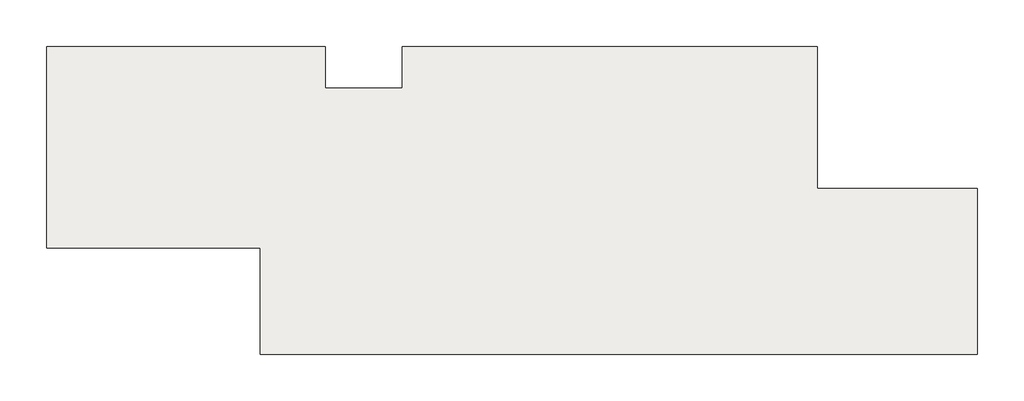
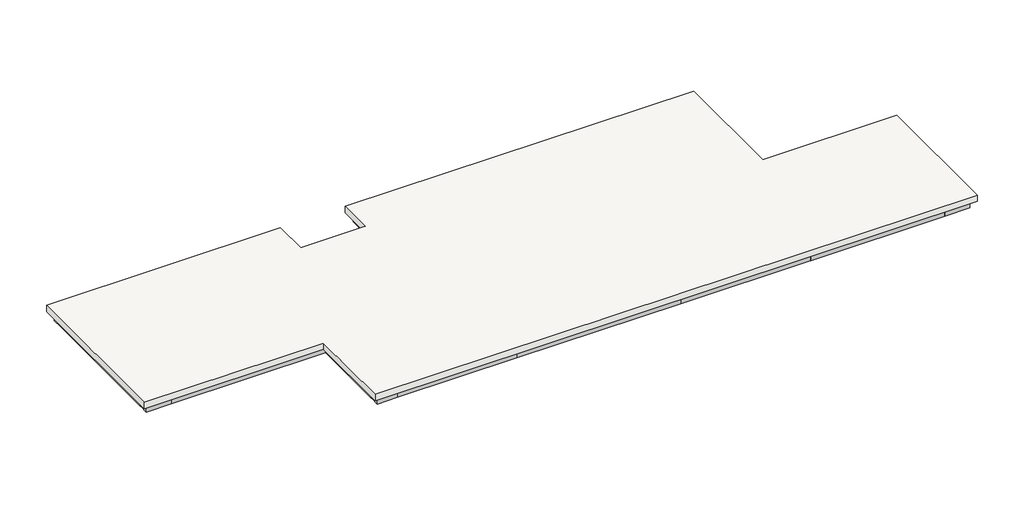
# One storey, incomplete: 25 beams, 1 slab.
"""IFC4 building model written with IfcOpenShell, lengths in millimetres."""

from ifc_helpers import new_model, si_unit, frame, origin, place, context, project, spatial, polyline, outline, extrude, transform, mapped, element, save
from components import ajn_arc_ossature_rec_ba_700x600_5242ffbb, ajn_arc_ossature_rec_ba_700x600_213c05e2, ajn_arc_ossature_rec_ba_700x600_4d623bda, ajn_arc_ossature_rec_ba_700x600_c2a8f1af, ajn_arc_ossature_rec_ba_700x600_b2f97811, ajn_arc_ossature_rec_ba_700x600_e688680c, ajn_arc_ossature_rec_ba_700x600_8adee879, ajn_arc_ossature_rec_ba_700x600_6677e51c, ajn_arc_ossature_rec_ba_700x600_60e35d56, ajn_arc_ossature_rec_ba_700x600_9ae0f913, ajn_arc_ossature_rec_ba_700x600_5c14351b, ajn_arc_ossature_rec_ba_700x600_e883967f, ajn_arc_ossature_rec_ba_700x600_0984b03c, ajn_arc_ossature_rec_ba_700x600_78f846f2, ajn_arc_ossature_rec_ba_700x600_e869caa8, ajn_arc_ossature_rec_ba_700x600_cb3e513f, ajn_arc_ossature_rec_ba_700x600_0388eb48, ajn_arc_ossature_rec_ba_700x600_e143517c, ajn_arc_ossature_rec_ba_700x600_758f1bfa

model = new_model("IFC4")

# Units and contexts
model_context = context("Model", 3, world=origin())
ifc_project = project(units=[si_unit("LENGTHUNIT", "METRE", prefix="MILLI")], contexts=[model_context])

# Site, building, storey
site = spatial("IfcSite", under=ifc_project)
building = spatial("IfcBuilding", under=site)
storey = spatial("IfcBuildingStorey", under=building, Name="TW-L 22", Elevation=78399.9999686)

# Beams
placement = place(None, origin())
ajn_arc_ossature_rec_ba_700x600_shape = ajn_arc_ossature_rec_ba_700x600_5242ffbb(model_context)
element("IfcBeam", 1, ObjectType="AJN-ARC-OSSATURE REC-BA : 700x600", at=placement, inside=storey, context=model_context, shape_type="MappedRepresentation", body=[
    mapped(ajn_arc_ossature_rec_ba_700x600_shape, transform((119350.0, 39300.0, 77849.9999686), x_axis=(-1.0, 0.0, 0.0), y_axis=(0.0, -1.0, 0.0), z_axis=(0.0, 0.0, 1.0))),
])
ajn_arc_ossature_rec_ba_700x600_2_shape = ajn_arc_ossature_rec_ba_700x600_213c05e2(model_context)
element("IfcBeam", 2, ObjectType="AJN-ARC-OSSATURE REC-BA : 700x600", at=placement, inside=storey, context=model_context, shape_type="MappedRepresentation", body=[
    mapped(ajn_arc_ossature_rec_ba_700x600_2_shape, transform((100900.0, 34800.0, 77849.9999686), x_axis=(0.0, -1.0, 0.0), y_axis=(1.0, 0.0, 0.0), z_axis=(0.0, 0.0, 1.0))),
])
ajn_arc_ossature_rec_ba_700x600_3_shape = ajn_arc_ossature_rec_ba_700x600_4d623bda(model_context)
element("IfcBeam", 3, ObjectType="AJN-ARC-OSSATURE REC-BA : 700x600", at=placement, inside=storey, context=model_context, shape_type="MappedRepresentation", body=[
    mapped(ajn_arc_ossature_rec_ba_700x600_3_shape, transform((112150.0, 24900.0, 77849.9999686), x_axis=(1.0, 0.0, 0.0), y_axis=(0.0, 1.0, 0.0), z_axis=(0.0, 0.0, 1.0))),
])
ajn_arc_ossature_rec_ba_700x600_4_shape = ajn_arc_ossature_rec_ba_700x600_c2a8f1af(model_context)
element("IfcBeam", 4, ObjectType="AJN-ARC-OSSATURE REC-BA : 700x600", at=placement, inside=storey, context=model_context, shape_type="MappedRepresentation", body=[
    mapped(ajn_arc_ossature_rec_ba_700x600_4_shape, transform((116200.0, 24900.0, 77849.9999686), x_axis=(1.0, 0.0, 0.0), y_axis=(0.0, 1.0, 0.0), z_axis=(0.0, 0.0, 1.0))),
])
ajn_arc_ossature_rec_ba_700x600_5_shape = ajn_arc_ossature_rec_ba_700x600_b2f97811(model_context)
element("IfcBeam", 5, ObjectType="AJN-ARC-OSSATURE REC-BA : 700x600", at=placement, inside=storey, context=model_context, shape_type="MappedRepresentation", body=[
    mapped(ajn_arc_ossature_rec_ba_700x600_5_shape, transform((106900.0, 30300.0, 77849.9999686), x_axis=(1.0, 0.0, 0.0), y_axis=(0.0, 1.0, 0.0), z_axis=(0.0, 0.0, 1.0))),
])
ajn_arc_ossature_rec_ba_700x600_6_shape = ajn_arc_ossature_rec_ba_700x600_e688680c(model_context)
element("IfcBeam", 6, ObjectType="AJN-ARC-OSSATURE REC-BA : 700x600", at=placement, inside=storey, context=model_context, shape_type="MappedRepresentation", body=[
    mapped(ajn_arc_ossature_rec_ba_700x600_6_shape, transform((111700.0, 27600.0, 77849.9999686), x_axis=(0.0, -1.0, 0.0), y_axis=(1.0, 0.0, 0.0), z_axis=(0.0, 0.0, 1.0))),
])
ajn_arc_ossature_rec_ba_700x600_7_shape = ajn_arc_ossature_rec_ba_700x600_8adee879(model_context)
element("IfcBeam", 7, ObjectType="AJN-ARC-OSSATURE REC-BA : 700x600", at=placement, inside=storey, context=model_context, shape_type="MappedRepresentation", body=[
    mapped(ajn_arc_ossature_rec_ba_700x600_7_shape, transform((124750.0, 24900.0, 77849.9999686), x_axis=(1.0, 0.0, 0.0), y_axis=(0.0, 1.0, 0.0), z_axis=(0.0, 0.0, 1.0))),
])
element("IfcBeam", 8, ObjectType="AJN-ARC-OSSATURE REC-BA : 700x600", at=placement, inside=storey, context=model_context, shape_type="MappedRepresentation", body=[
    mapped(ajn_arc_ossature_rec_ba_700x600_7_shape, transform((124750.0, 39300.0, 77849.9999686), x_axis=(-1.0, 0.0, 0.0), y_axis=(0.0, -1.0, 0.0), z_axis=(0.0, 0.0, 1.0))),
])
ajn_arc_ossature_rec_ba_700x600_8_shape = ajn_arc_ossature_rec_ba_700x600_6677e51c(model_context)
element("IfcBeam", 9, ObjectType="AJN-ARC-OSSATURE REC-BA : 700x600", at=placement, inside=storey, context=model_context, shape_type="MappedRepresentation", body=[
    mapped(ajn_arc_ossature_rec_ba_700x600_8_shape, transform((133600.0, 24900.0, 77849.9999686), x_axis=(1.0, 0.0, 0.0), y_axis=(0.0, 1.0, 0.0), z_axis=(0.0, 0.0, 1.0))),
])
ajn_arc_ossature_rec_ba_700x600_9_shape = ajn_arc_ossature_rec_ba_700x600_60e35d56(model_context)
element("IfcBeam", 10, ObjectType="AJN-ARC-OSSATURE REC-BA : 700x600", at=placement, inside=storey, context=model_context, shape_type="MappedRepresentation", body=[
    mapped(ajn_arc_ossature_rec_ba_700x600_9_shape, transform((141550.0, 24900.0, 77849.9999686), x_axis=(1.0, 0.0, 0.0), y_axis=(0.0, 1.0, 0.0), z_axis=(0.0, 0.0, 1.0))),
])
ajn_arc_ossature_rec_ba_700x600_10_shape = ajn_arc_ossature_rec_ba_700x600_9ae0f913(model_context)
element("IfcBeam", 11, ObjectType="AJN-ARC-OSSATURE REC-BA : 700x600", at=placement, inside=storey, context=model_context, shape_type="MappedRepresentation", body=[
    mapped(ajn_arc_ossature_rec_ba_700x600_10_shape, transform((146200.0, 24900.0, 77849.9999686), x_axis=(1.0, 0.0, 0.0), y_axis=(0.0, 1.0, 0.0), z_axis=(0.0, 0.0, 1.0))),
])
element("IfcBeam", 12, ObjectType="AJN-ARC-OSSATURE REC-BA : 700x600", at=placement, inside=storey, context=model_context, shape_type="MappedRepresentation", body=[
    mapped(ajn_arc_ossature_rec_ba_700x600_10_shape, transform((101500.0, 39300.0, 77849.9999686), x_axis=(-1.0, 0.0, 0.0), y_axis=(0.0, -1.0, 0.0), z_axis=(0.0, 0.0, 1.0))),
])
ajn_arc_ossature_rec_ba_700x600_11_shape = ajn_arc_ossature_rec_ba_700x600_5c14351b(model_context)
element("IfcBeam", 13, ObjectType="AJN-ARC-OSSATURE REC-BA : 700x600", at=placement, inside=storey, context=model_context, shape_type="MappedRepresentation", body=[
    mapped(ajn_arc_ossature_rec_ba_700x600_11_shape, transform((146800.0, 28500.0, 77849.9999686), x_axis=(0.0, 1.0, 0.0), y_axis=(-1.0, 0.0, 0.0), z_axis=(0.0, 0.0, 1.0))),
])
element("IfcBeam", 14, ObjectType="AJN-ARC-OSSATURE REC-BA : 700x600", at=placement, inside=storey, context=model_context, shape_type="MappedRepresentation", body=[
    mapped(ajn_arc_ossature_rec_ba_700x600_11_shape, transform((138700.0, 35700.0, 77849.9999686), x_axis=(0.0, 1.0, 0.0), y_axis=(-1.0, 0.0, 0.0), z_axis=(0.0, 0.0, 1.0))),
])
ajn_arc_ossature_rec_ba_700x600_12_shape = ajn_arc_ossature_rec_ba_700x600_e883967f(model_context)
element("IfcBeam", 15, ObjectType="AJN-ARC-OSSATURE REC-BA : 700x600", at=placement, inside=storey, context=model_context, shape_type="MappedRepresentation", body=[
    mapped(ajn_arc_ossature_rec_ba_700x600_12_shape, transform((146200.0, 32100.0, 77849.9999686), x_axis=(-1.0, 0.0, 0.0), y_axis=(0.0, -1.0, 0.0), z_axis=(0.0, 0.0, 1.0))),
])
element("IfcBeam", 16, ObjectType="AJN-ARC-OSSATURE REC-BA : 700x600", at=placement, inside=storey, context=model_context, shape_type="MappedRepresentation", body=[
    mapped(ajn_arc_ossature_rec_ba_700x600_12_shape, transform((138100.0, 39300.0, 77849.9999686), x_axis=(-1.0, 0.0, 0.0), y_axis=(0.0, -1.0, 0.0), z_axis=(0.0, 0.0, 1.0))),
])
element("IfcBeam", 17, ObjectType="AJN-ARC-OSSATURE REC-BA : 700x600", at=placement, inside=storey, context=model_context, shape_type="MappedRepresentation", body=[
    mapped(ajn_arc_ossature_rec_ba_700x600_12_shape, transform((113200.0, 39300.0, 77849.9999686), x_axis=(-1.0, 0.0, 0.0), y_axis=(0.0, -1.0, 0.0), z_axis=(0.0, 0.0, 1.0))),
])
element("IfcBeam", 18, ObjectType="AJN-ARC-OSSATURE REC-BA : 700x600", at=placement, inside=storey, context=model_context, shape_type="MappedRepresentation", body=[
    mapped(ajn_arc_ossature_rec_ba_700x600_12_shape, transform((101500.0, 30300.0, 77849.9999686), x_axis=(1.0, 0.0, 0.0), y_axis=(0.0, 1.0, 0.0), z_axis=(0.0, 0.0, 1.0))),
])
ajn_arc_ossature_rec_ba_700x600_13_shape = ajn_arc_ossature_rec_ba_700x600_0984b03c(model_context)
element("IfcBeam", 19, ObjectType="AJN-ARC-OSSATURE REC-BA : 700x600", at=placement, inside=storey, context=model_context, shape_type="MappedRepresentation", body=[
    mapped(ajn_arc_ossature_rec_ba_700x600_13_shape, transform((142150.0, 32100.0, 77849.9999686), x_axis=(-1.0, 0.0, 0.0), y_axis=(0.0, -1.0, 0.0), z_axis=(0.0, 0.0, 1.0))),
])
ajn_arc_ossature_rec_ba_700x600_14_shape = ajn_arc_ossature_rec_ba_700x600_78f846f2(model_context)
element("IfcBeam", 20, ObjectType="AJN-ARC-OSSATURE REC-BA : 700x600", at=placement, inside=storey, context=model_context, shape_type="MappedRepresentation", body=[
    mapped(ajn_arc_ossature_rec_ba_700x600_14_shape, transform((133600.0, 39300.0, 77849.9999686), x_axis=(-1.0, 0.0, 0.0), y_axis=(0.0, -1.0, 0.0), z_axis=(0.0, 0.0, 1.0))),
])
ajn_arc_ossature_rec_ba_700x600_15_shape = ajn_arc_ossature_rec_ba_700x600_e869caa8(model_context)
element("IfcBeam", 21, ObjectType="AJN-ARC-OSSATURE REC-BA : 700x600", at=placement, inside=storey, context=model_context, shape_type="MappedRepresentation", body=[
    mapped(ajn_arc_ossature_rec_ba_700x600_15_shape, transform((118900.0, 38250.0, 77849.9999686), x_axis=(0.0, -1.0, 0.0), y_axis=(1.0, 0.0, 0.0), z_axis=(0.0, 0.0, 1.0))),
])
ajn_arc_ossature_rec_ba_700x600_16_shape = ajn_arc_ossature_rec_ba_700x600_cb3e513f(model_context)
element("IfcBeam", 22, ObjectType="AJN-ARC-OSSATURE REC-BA : 700x600", at=placement, inside=storey, context=model_context, shape_type="MappedRepresentation", body=[
    mapped(ajn_arc_ossature_rec_ba_700x600_16_shape, transform((113800.0, 38250.0, 77849.9999686), x_axis=(0.0, 1.0, 0.0), y_axis=(-1.0, 0.0, 0.0), z_axis=(0.0, 0.0, 1.0))),
])
ajn_arc_ossature_rec_ba_700x600_17_shape = ajn_arc_ossature_rec_ba_700x600_0388eb48(model_context)
element("IfcBeam", 23, ObjectType="AJN-ARC-OSSATURE REC-BA : 700x600", at=placement, inside=storey, context=model_context, shape_type="MappedRepresentation", body=[
    mapped(ajn_arc_ossature_rec_ba_700x600_17_shape, transform((110350.0, 39300.0, 77849.9999686), x_axis=(-1.0, 0.0, 0.0), y_axis=(0.0, -1.0, 0.0), z_axis=(0.0, 0.0, 1.0))),
])
ajn_arc_ossature_rec_ba_700x600_18_shape = ajn_arc_ossature_rec_ba_700x600_e143517c(model_context)
element("IfcBeam", 24, ObjectType="AJN-ARC-OSSATURE REC-BA : 700x600", at=placement, inside=storey, context=model_context, shape_type="MappedRepresentation", body=[
    mapped(ajn_arc_ossature_rec_ba_700x600_18_shape, transform((105100.0, 39300.0, 77849.9999686), x_axis=(-1.0, 0.0, 0.0), y_axis=(0.0, -1.0, 0.0), z_axis=(0.0, 0.0, 1.0))),
])
ajn_arc_ossature_rec_ba_700x600_19_shape = ajn_arc_ossature_rec_ba_700x600_758f1bfa(model_context)
element("IfcBeam", 25, ObjectType="AJN-ARC-OSSATURE REC-BA : 700x600", at=placement, inside=storey, context=model_context, shape_type="MappedRepresentation", body=[
    mapped(ajn_arc_ossature_rec_ba_700x600_19_shape, transform((116350.0, 37200.0, 77849.9999686), x_axis=(-1.0, 0.0, 0.0), y_axis=(0.0, -1.0, 0.0), z_axis=(0.0, 0.0, 1.0))),
])

# Slab
element("IfcSlab", 26, ObjectType="AJN-ARC-SLAB-40cm", at=placement, inside=storey, context=model_context, shape_type="SweptSolid", body=[
    extrude(outline(polyline([(147400.0, 24300.0), (111100.0, 24300.0), (111100.0, 29700.0), (100300.0, 29700.0), (100300.0, 39900.0), (114400.0, 39900.0), (114400.0, 37800.0), (118300.0, 37800.0), (118300.0, 39900.0), (139300.0, 39900.0), (139300.0, 32700.0), (147400.0, 32700.0), (147400.0, 24300.0)])), frame((0.0, 0.0, 77999.9999686), z_axis=(0.0, 0.0, 1.0), x_axis=(1.0, 0.0, 0.0)), (0.0, 0.0, 1.0), 400.0),
])

save(model, "model.ifc")
